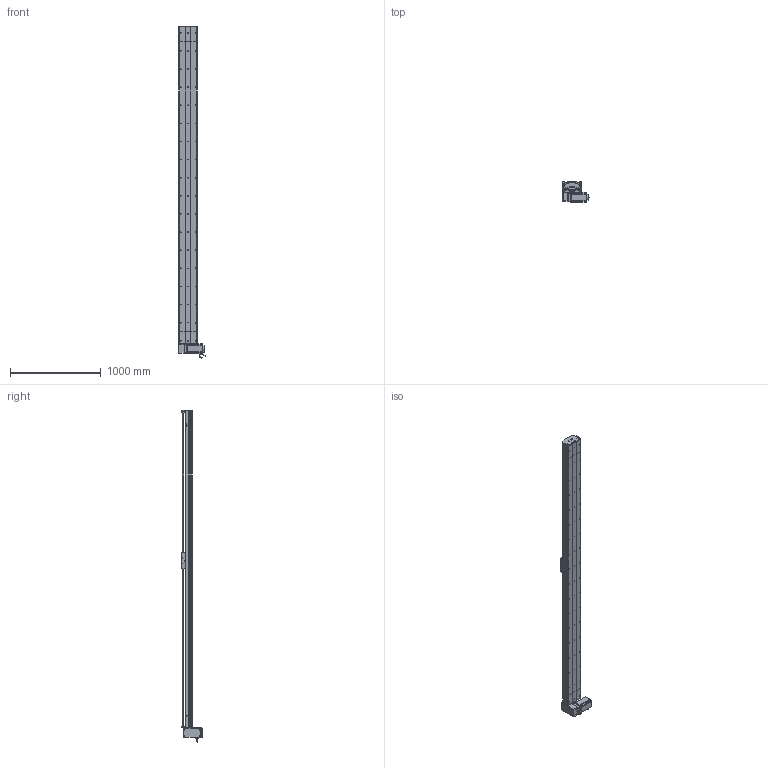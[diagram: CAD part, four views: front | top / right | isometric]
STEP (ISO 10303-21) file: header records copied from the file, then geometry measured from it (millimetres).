
FILE_DESCRIPTION (( 'STEP AP214' ), '1' );
FILE_NAME ('D20 TBH RU S3200.STEP', '2010-07-01T08:50:26', ( 'Conseil Régional Haute-Normandie' ), ( 'Conseil Régional Haute-Normandie' ), 'SwSTEP 2.0', 'SolidWorks 2010', '' );
FILE_SCHEMA (( 'AUTOMOTIVE_DESIGN' ));
Length unit declared in the file: millimetre
Products named in the file (40): Moteur motionking 110BLDC170A-640x; guide D20B; Chariot D20B; tail D20_Default; vis M5 L25_Default; vis M5 L5_Default; avant 110BLDC170A-630x; couroie_Default; vis M5 L70_Default; Plaque racord D20LH_Default; Renvoi RU D20_Default; cache D20_Default; cache arbre D20_Default; plaque de  bout head D20B RU_Default; poulie head D20_Default; couvercle head D20_Default; rail head D20; corpl tail D20_Default; head RU_Default; rail tail D20; poulie tail D20_Default; corpl head D20_Default; vis M5 L8 90°_Default; plaque de  bout tail D20_Default; tete d''axe poulie D20B; couvercle tail D20_Default; Couroie tail D20_Default; vis M5 L12_Default; vis M8 L12_Default; clavette; Conecteur2_Default; codeur 110BLDC170A-630x; Conecteur_Default; corps 110BLDC170A-630x; corp D20 S3200_Default; Course B L3200_Default; D20 TBH RU S3200; chariot D20B_Default; rail + couroie  D20 S3200; couvercle D20 S3200_Default
Assembly tree (71 placements, depth 4):
  D20 TBH RU S3200
    chariot D20B_Default
      vis M5 L12_Default  x4
      Chariot D20B
      guide D20B  x2
    head RU_Default
      cache arbre D20_Default
      corpl head D20_Default
      couroie_Default
      plaque de  bout head D20B RU_Default
      couvercle head D20_Default
      vis M5 L12_Default  x10
      vis M5 L5_Default  x4
      vis M5 L70_Default  x4
      Moteur motionking 110BLDC170A-640x
        corps 110BLDC170A-630x
        avant 110BLDC170A-630x
        clavette
        Conecteur_Default
        Conecteur2_Default
        codeur 110BLDC170A-630x
      rail head D20
      vis M8 L12_Default  x4
      vis M5 L25_Default  x2
      poulie head D20_Default
      cache D20_Default  x2
      Renvoi RU D20_Default
      Plaque racord D20LH_Default
    Course B L3200_Default
      rail + couroie  D20 S3200
      couvercle D20 S3200_Default
      corp D20 S3200_Default
    tail D20_Default
      tete d''axe poulie D20B
      vis M5 L12_Default  x4
      Couroie tail D20_Default
      vis M5 L25_Default  x2
      corpl tail D20_Default
      plaque de  bout tail D20_Default
      couvercle tail D20_Default
      vis M5 L8 90°_Default  x2
      poulie tail D20_Default
      rail tail D20
Bounding box: 304.2 x 223.2 x 3665 mm (x, y, z)
Volume: 28446903.1 mm3; surface area: 7040596 mm2
Topology: 95 solids, 95 shells, 2879 faces, 7425 edges, 4801 vertices
Faces by surface type: plane 1644, cylinder 911, bspline 136, cone 99, torus 89
Entity records: 93618 total; most frequent: CARTESIAN_POINT 30553, ORIENTED_EDGE 11506, DIRECTION 10790, EDGE_CURVE 5753, VERTEX_POINT 3787, VECTOR 3622, LINE 3622, AXIS2_PLACEMENT_3D 3584
